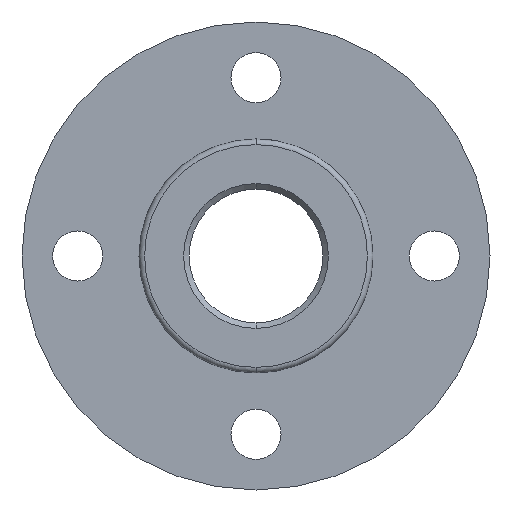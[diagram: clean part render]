
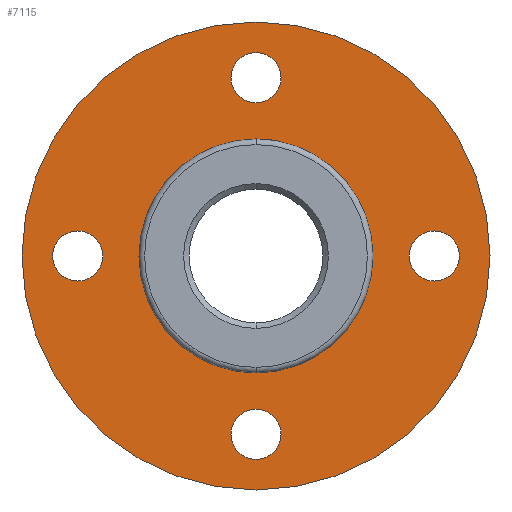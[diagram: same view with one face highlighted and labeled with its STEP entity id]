
A CAD part, front view. The second image highlights one B-rep face of the part: STEP entity #7115.
In plain terms, the highlighted planar face has unit normal (0, -1, 0).
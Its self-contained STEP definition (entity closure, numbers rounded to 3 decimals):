
#5 = EDGE_LOOP ( 'NONE', ( #6249, #2210 ) ) ;
#24 = ORIENTED_EDGE ( 'NONE', *, *, #2602, .T. ) ;
#44 = ORIENTED_EDGE ( 'NONE', *, *, #5558, .T. ) ;
#100 = DIRECTION ( 'NONE',  ( 0., 1., 0. ) ) ;
#103 = AXIS2_PLACEMENT_3D ( 'NONE', #1275, #4615, #1803 ) ;
#202 = CARTESIAN_POINT ( 'NONE',  ( 0., 0., -13.75 ) ) ;
#310 = AXIS2_PLACEMENT_3D ( 'NONE', #3226, #5477, #434 ) ;
#329 = DIRECTION ( 'NONE',  ( 0., 0., 1. ) ) ;
#343 = EDGE_CURVE ( 'NONE', #384, #6965, #4553, .T. ) ;
#375 = VERTEX_POINT ( 'NONE', #419 ) ;
#384 = VERTEX_POINT ( 'NONE', #4349 ) ;
#419 = CARTESIAN_POINT ( 'NONE',  ( 16., 0., -2.25 ) ) ;
#434 = DIRECTION ( 'NONE',  ( 0., 0., 1. ) ) ;
#631 = DIRECTION ( 'NONE',  ( 0., 0., 1. ) ) ;
#685 = AXIS2_PLACEMENT_3D ( 'NONE', #2595, #3667, #1454 ) ;
#728 = DIRECTION ( 'NONE',  ( 0., 1., 0. ) ) ;
#817 = VERTEX_POINT ( 'NONE', #5801 ) ;
#838 = CARTESIAN_POINT ( 'NONE',  ( 0., 0., 21. ) ) ;
#891 = EDGE_LOOP ( 'NONE', ( #1777, #5194 ) ) ;
#935 = AXIS2_PLACEMENT_3D ( 'NONE', #2614, #4840, #329 ) ;
#984 = EDGE_CURVE ( 'NONE', #1271, #5886, #1162, .T. ) ;
#994 = DIRECTION ( 'NONE',  ( 0., 1., 0. ) ) ;
#1058 = CIRCLE ( 'NONE', #1384, 2.25 ) ;
#1084 = AXIS2_PLACEMENT_3D ( 'NONE', #4381, #994, #2727 ) ;
#1108 = ORIENTED_EDGE ( 'NONE', *, *, #5472, .F. ) ;
#1133 = CARTESIAN_POINT ( 'NONE',  ( 0., 0., -18.25 ) ) ;
#1145 = ORIENTED_EDGE ( 'NONE', *, *, #2138, .T. ) ;
#1153 = CIRCLE ( 'NONE', #5056, 2.25 ) ;
#1162 = CIRCLE ( 'NONE', #310, 21. ) ;
#1204 = CARTESIAN_POINT ( 'NONE',  ( 0., 0., -16. ) ) ;
#1211 = DIRECTION ( 'NONE',  ( 0., 0., 1. ) ) ;
#1250 = AXIS2_PLACEMENT_3D ( 'NONE', #3416, #3391, #631 ) ;
#1271 = VERTEX_POINT ( 'NONE', #838 ) ;
#1275 = CARTESIAN_POINT ( 'NONE',  ( 0., 0., 0. ) ) ;
#1341 = AXIS2_PLACEMENT_3D ( 'NONE', #5776, #4133, #2428 ) ;
#1380 = CIRCLE ( 'NONE', #935, 10.5 ) ;
#1385 = EDGE_CURVE ( 'NONE', #7109, #375, #6752, .T. ) ;
#1384 = AXIS2_PLACEMENT_3D ( 'NONE', #6344, #6850, #4073 ) ;
#1397 = AXIS2_PLACEMENT_3D ( 'NONE', #3728, #1486, #4264 ) ;
#1454 = DIRECTION ( 'NONE',  ( 0., 0., 1. ) ) ;
#1464 = FACE_BOUND ( 'NONE', #2864, .T. ) ;
#1486 = DIRECTION ( 'NONE',  ( 0., 1., 0. ) ) ;
#1606 = CARTESIAN_POINT ( 'NONE',  ( 0., 0., -21. ) ) ;
#1639 = CARTESIAN_POINT ( 'NONE',  ( -16., 0., -2.25 ) ) ;
#1655 = EDGE_CURVE ( 'NONE', #7103, #5997, #1153, .T. ) ;
#1777 = ORIENTED_EDGE ( 'NONE', *, *, #343, .T. ) ;
#1803 = DIRECTION ( 'NONE',  ( 0., 0., 1. ) ) ;
#1811 = FACE_OUTER_BOUND ( 'NONE', #5562, .T. ) ;
#1921 = CIRCLE ( 'NONE', #1250, 2.25 ) ;
#1957 = ORIENTED_EDGE ( 'NONE', *, *, #1385, .T. ) ;
#1988 = FACE_BOUND ( 'NONE', #5543, .T. ) ;
#2100 = CIRCLE ( 'NONE', #6950, 2.25 ) ;
#2138 = EDGE_CURVE ( 'NONE', #5997, #7103, #2100, .T. ) ;
#2210 = ORIENTED_EDGE ( 'NONE', *, *, #6686, .T. ) ;
#2220 = DIRECTION ( 'NONE',  ( 0., 1., 0. ) ) ;
#2428 = DIRECTION ( 'NONE',  ( 0., 0., 1. ) ) ;
#2433 = CARTESIAN_POINT ( 'NONE',  ( 0., 0., 16. ) ) ;
#2590 = CARTESIAN_POINT ( 'NONE',  ( 0., 0., 10.5 ) ) ;
#2595 = CARTESIAN_POINT ( 'NONE',  ( -16., 0., 0. ) ) ;
#2597 = EDGE_LOOP ( 'NONE', ( #44, #5534 ) ) ;
#2602 = EDGE_CURVE ( 'NONE', #375, #7109, #1921, .T. ) ;
#2614 = CARTESIAN_POINT ( 'NONE',  ( 0., 0., 0. ) ) ;
#2660 = VERTEX_POINT ( 'NONE', #1639 ) ;
#2704 = CIRCLE ( 'NONE', #3627, 2.25 ) ;
#2713 = ORIENTED_EDGE ( 'NONE', *, *, #1655, .T. ) ;
#2727 = DIRECTION ( 'NONE',  ( 0., 0., 1. ) ) ;
#2864 = EDGE_LOOP ( 'NONE', ( #2713, #1145 ) ) ;
#2929 = CARTESIAN_POINT ( 'NONE',  ( -16., 0., 0. ) ) ;
#3150 = PLANE ( 'NONE',  #1397 ) ;
#3223 = CIRCLE ( 'NONE', #1341, 21. ) ;
#3226 = CARTESIAN_POINT ( 'NONE',  ( 0., 0., 0. ) ) ;
#3391 = DIRECTION ( 'NONE',  ( 0., 1., 0. ) ) ;
#3416 = CARTESIAN_POINT ( 'NONE',  ( 16., 0., 0. ) ) ;
#3485 = DIRECTION ( 'NONE',  ( 0., 0., 1. ) ) ;
#3628 = EDGE_CURVE ( 'NONE', #6718, #4939, #5333, .T. ) ;
#3627 = AXIS2_PLACEMENT_3D ( 'NONE', #2929, #728, #3485 ) ;
#3667 = DIRECTION ( 'NONE',  ( 0., 1., 0. ) ) ;
#3728 = CARTESIAN_POINT ( 'NONE',  ( 0., 0., 0. ) ) ;
#3733 = FACE_BOUND ( 'NONE', #2597, .T. ) ;
#4073 = DIRECTION ( 'NONE',  ( 0., 0., 1. ) ) ;
#4108 = AXIS2_PLACEMENT_3D ( 'NONE', #2433, #6363, #4138 ) ;
#4133 = DIRECTION ( 'NONE',  ( 0., 1., 0. ) ) ;
#4138 = DIRECTION ( 'NONE',  ( 0., 0., 1. ) ) ;
#4239 = EDGE_CURVE ( 'NONE', #6965, #384, #1058, .T. ) ;
#4246 = EDGE_CURVE ( 'NONE', #2660, #817, #2704, .T. ) ;
#4264 = DIRECTION ( 'NONE',  ( 0., 0., 1. ) ) ;
#4349 = CARTESIAN_POINT ( 'NONE',  ( 0., 0., 18.25 ) ) ;
#4381 = CARTESIAN_POINT ( 'NONE',  ( 16., 0., 0. ) ) ;
#4512 = CARTESIAN_POINT ( 'NONE',  ( 0., 0., -16. ) ) ;
#4553 = CIRCLE ( 'NONE', #4108, 2.25 ) ;
#4608 = FACE_BOUND ( 'NONE', #891, .T. ) ;
#4615 = DIRECTION ( 'NONE',  ( 0., 1., 0. ) ) ;
#4840 = DIRECTION ( 'NONE',  ( 0., 1., 0. ) ) ;
#4939 = VERTEX_POINT ( 'NONE', #6691 ) ;
#5056 = AXIS2_PLACEMENT_3D ( 'NONE', #4512, #2220, #1211 ) ;
#5103 = DIRECTION ( 'NONE',  ( 0., 0., 1. ) ) ;
#5194 = ORIENTED_EDGE ( 'NONE', *, *, #4239, .T. ) ;
#5333 = CIRCLE ( 'NONE', #103, 10.5 ) ;
#5472 = EDGE_CURVE ( 'NONE', #5886, #1271, #3223, .T. ) ;
#5477 = DIRECTION ( 'NONE',  ( 0., 1., 0. ) ) ;
#5534 = ORIENTED_EDGE ( 'NONE', *, *, #4246, .T. ) ;
#5543 = EDGE_LOOP ( 'NONE', ( #1957, #24 ) ) ;
#5558 = EDGE_CURVE ( 'NONE', #817, #2660, #6818, .T. ) ;
#5562 = EDGE_LOOP ( 'NONE', ( #1108, #5815 ) ) ;
#5776 = CARTESIAN_POINT ( 'NONE',  ( 0., 0., 0. ) ) ;
#5801 = CARTESIAN_POINT ( 'NONE',  ( -16., 0., 2.25 ) ) ;
#5815 = ORIENTED_EDGE ( 'NONE', *, *, #984, .F. ) ;
#5886 = VERTEX_POINT ( 'NONE', #1606 ) ;
#5997 = VERTEX_POINT ( 'NONE', #1133 ) ;
#6149 = CARTESIAN_POINT ( 'NONE',  ( 0., 0., 13.75 ) ) ;
#6249 = ORIENTED_EDGE ( 'NONE', *, *, #3628, .T. ) ;
#6344 = CARTESIAN_POINT ( 'NONE',  ( 0., 0., 16. ) ) ;
#6363 = DIRECTION ( 'NONE',  ( 0., 1., 0. ) ) ;
#6564 = CARTESIAN_POINT ( 'NONE',  ( 16., 0., 2.25 ) ) ;
#6686 = EDGE_CURVE ( 'NONE', #4939, #6718, #1380, .T. ) ;
#6691 = CARTESIAN_POINT ( 'NONE',  ( 0., 0., -10.5 ) ) ;
#6718 = VERTEX_POINT ( 'NONE', #2590 ) ;
#6726 = FACE_BOUND ( 'NONE', #5, .T. ) ;
#6752 = CIRCLE ( 'NONE', #1084, 2.25 ) ;
#6818 = CIRCLE ( 'NONE', #685, 2.25 ) ;
#6850 = DIRECTION ( 'NONE',  ( 0., 1., 0. ) ) ;
#6950 = AXIS2_PLACEMENT_3D ( 'NONE', #1204, #100, #5103 ) ;
#6965 = VERTEX_POINT ( 'NONE', #6149 ) ;
#7103 = VERTEX_POINT ( 'NONE', #202 ) ;
#7109 = VERTEX_POINT ( 'NONE', #6564 ) ;
#7115 = ADVANCED_FACE ( 'NONE', ( #6726, #1464, #1988, #4608, #3733, #1811 ), #3150, .F. ) ;
